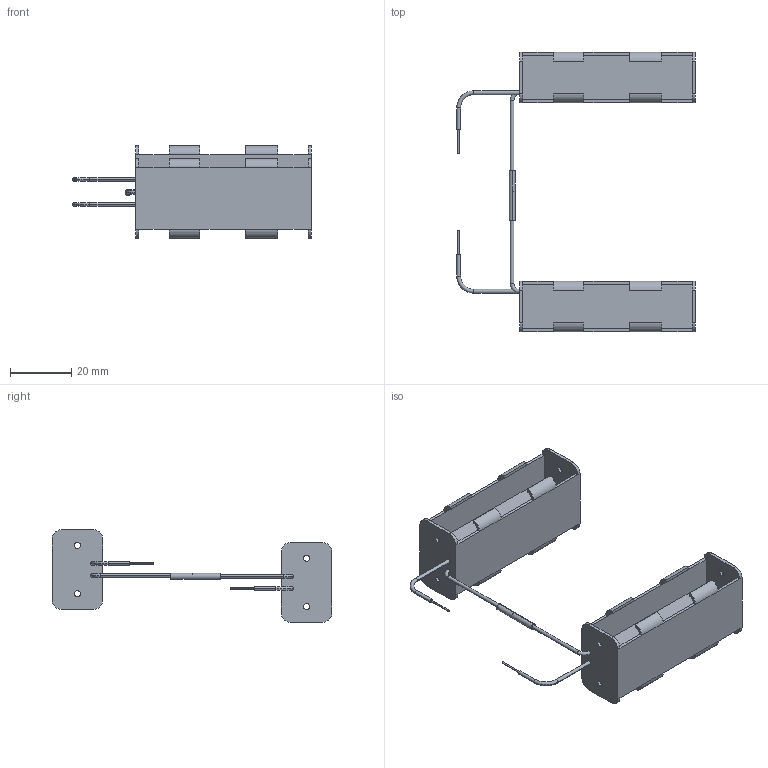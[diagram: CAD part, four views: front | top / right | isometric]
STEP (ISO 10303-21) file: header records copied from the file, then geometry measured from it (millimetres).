
FILE_DESCRIPTION (( 'STEP AP214' ), '1' );
FILE_NAME ('S11780-00001_Batteriehalter_Verbund.STEP', '2019-04-29T07:32:15', ( '' ), ( '' ), 'SwSTEP 2.0', 'SolidWorks 2017', '' );
FILE_SCHEMA (( 'AUTOMOTIVE_DESIGN' ));
Length unit declared in the file: millimetre
Products named in the file (3): S11780-00001_Batteriehalter_Verbund; 90830; Schrumpfschlauch
Assembly tree (3 placements, depth 2):
  S11780-00001_Batteriehalter_Verbund
    90830  x2
    Schrumpfschlauch
Bounding box: 78.12 x 91.6 x 30.23 mm (x, y, z)
Volume: 8552.9 mm3; surface area: 17960.1 mm2
Topology: 3 solids, 3 shells, 208 faces, 496 edges, 300 vertices
Faces by surface type: plane 116, cylinder 84, torus 8
Entity records: 3236 total; most frequent: DIRECTION 574, CARTESIAN_POINT 521, ORIENTED_EDGE 508, EDGE_CURVE 254, AXIS2_PLACEMENT_3D 207, VECTOR 160, LINE 160, VERTEX_POINT 154
